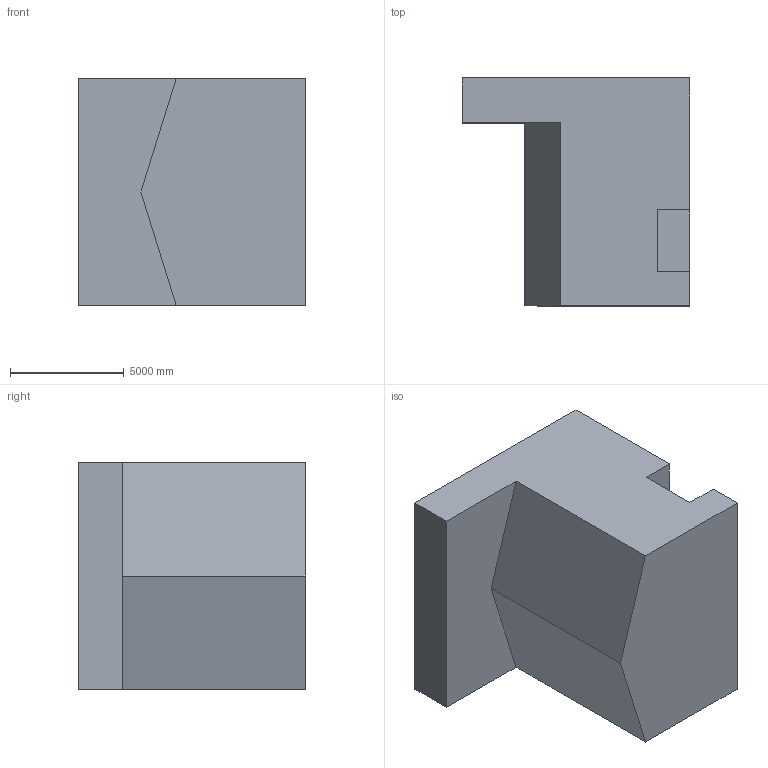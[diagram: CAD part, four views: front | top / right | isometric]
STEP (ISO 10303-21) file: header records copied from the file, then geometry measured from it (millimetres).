
FILE_DESCRIPTION (( 'STEP AP203' ), '1' );
FILE_NAME ('115.STEP', '2022-07-28T13:39:10', ( 'user' ), ( '' ), 'SwSTEP 2.0', 'SolidWorks 2021', '' );
FILE_SCHEMA (( 'CONFIG_CONTROL_DESIGN' ));
Length unit declared in the file: centimetre
Products named in the file (1): 115
Bounding box: 10000 x 10000 x 10000 mm (x, y, z)
Volume: 706623438181.1 mm3; surface area: 541426428.8 mm2
Topology: 1 solids, 1 shells, 13 faces, 33 edges, 22 vertices
Faces by surface type: plane 13
Entity records: 464 total; most frequent: CARTESIAN_POINT 69, ORIENTED_EDGE 66, DIRECTION 61, EDGE_CURVE 33, VECTOR 33, LINE 33, VERTEX_POINT 22, AXIS2_PLACEMENT_3D 14
